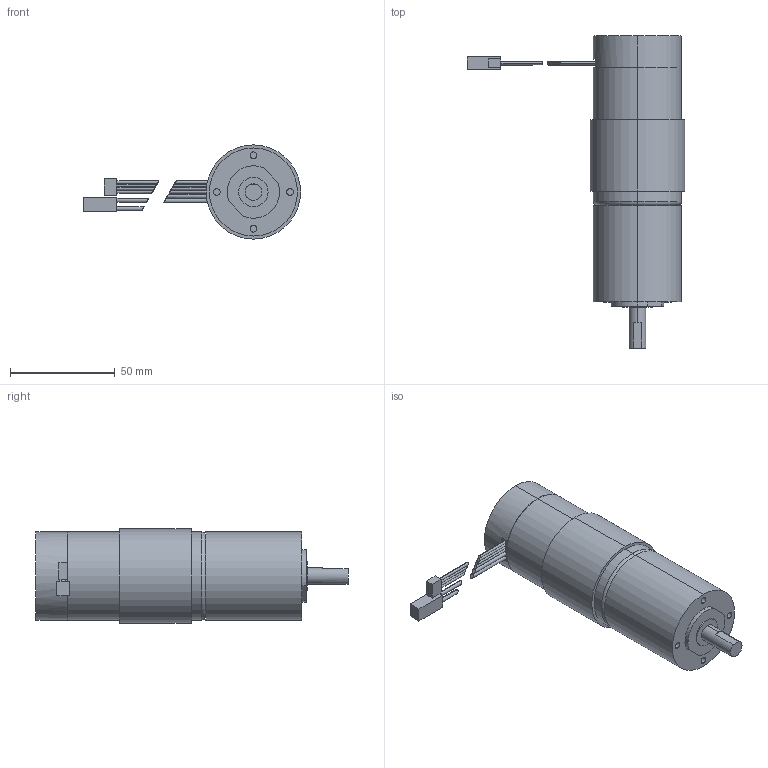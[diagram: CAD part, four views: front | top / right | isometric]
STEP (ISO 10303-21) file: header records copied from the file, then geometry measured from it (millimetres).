
FILE_DESCRIPTION((''),' ');
FILE_NAME('DSMP420_3_enc.stp',' ',('R. Lindner'),('MSW GmbH'),' ','ACIS 14.0',' ');
FILE_SCHEMA(('automotive_design'));
Length unit declared in the file: inch
Products named in the file (3): 1; 2; 3
Bounding box: 103.6 x 148.9 x 45 mm (x, y, z)
Volume: 185763.8 mm3; surface area: 23359.3 mm2
Topology: 3 solids, 3 shells, 100 faces, 209 edges, 138 vertices
Faces by surface type: cylinder 50, plane 45, cone 3, torus 2
Entity records: 3590 total; most frequent: DIRECTION 524, CARTESIAN_POINT 462, ORIENTED_EDGE 418, AXIS2_PLACEMENT_3D 214, EDGE_CURVE 209, VERTEX_POINT 138, EDGE_LOOP 123, STYLED_ITEM 103
